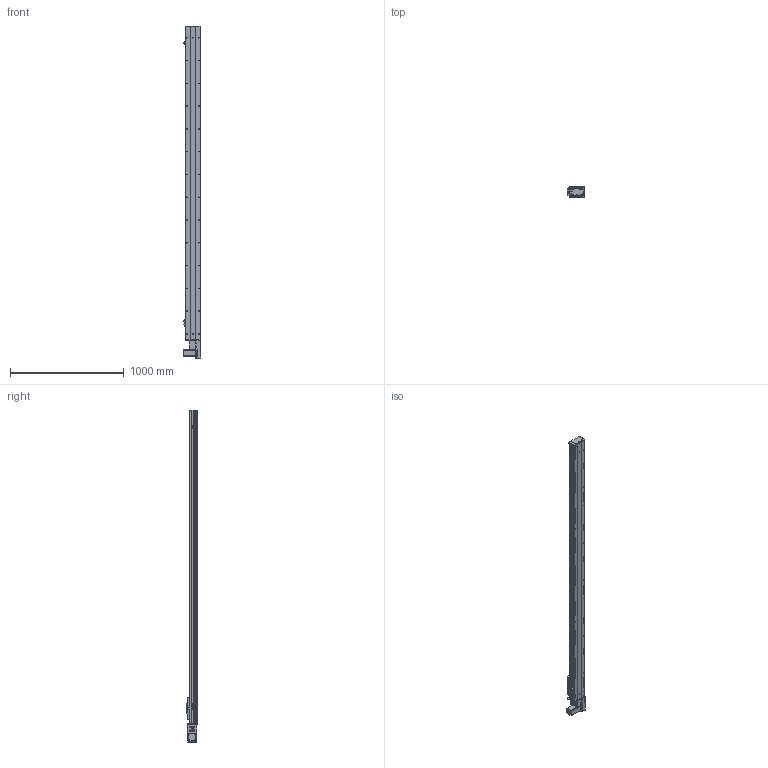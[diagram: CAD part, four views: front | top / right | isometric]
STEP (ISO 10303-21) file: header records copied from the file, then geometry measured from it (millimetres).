
FILE_DESCRIPTION (( 'STEP AP203' ), '1' );
FILE_NAME ('Y135CB-D90-S2450-BL-P400W.STEP', '2020-02-18T01:38:35', ( '微软用户' ), ( '微软中国' ), 'SwSTEP 2.0', 'SolidWorks 2017', '' );
FILE_SCHEMA (( 'CONFIG_CONTROL_DESIGN' ));
Length unit declared in the file: millimetre
Products named in the file (18): Y135CB-耜裔; C-雄赽釱--; 0B-萇儂楊擘啣; 135CB---遴掛极.-; Y135CB-D90-S2450-BL-P400W; san松下电机400不带刹车----; 35CB---喘謫眊楊擘啣; 5CB --掛极耜裔啣-; Y10B--々湍喘謫眊--666; C-詩湍揤踡え-陔; Y10B-耜蚾蟀諉啣----; 135CB--詩湍-CE; Y俋欶BR----; Y100-135俋离換覜ん--; 0B-埴倛裔啣; Y135C-陔俋离換覜結え-; 0B-源倛裔啣; 5C--俋欶
Assembly tree (21 placements, depth 2):
  Y135CB-D90-S2450-BL-P400W
    Y135CB-耜裔
    135CB---遴掛极.-
    35CB---喘謫眊楊擘啣
    Y10B--々湍喘謫眊--666
    Y10B-耜蚾蟀諉啣----
    Y俋欶BR----
    0B-埴倛裔啣
    0B-源倛裔啣
    0B-萇儂楊擘啣
    san松下电机400不带刹车----
    5CB --掛极耜裔啣-  x2
    C-詩湍揤踡え-陔  x2
    135CB--詩湍-CE
    Y100-135俋离換覜ん--  x3
    Y135C-陔俋离換覜結え-
    5C--俋欶
    C-雄赽釱--
Bounding box: 157.5 x 91 x 2914.5 mm (x, y, z)
Volume: 8152880.6 mm3; surface area: 3228956.8 mm2
Topology: 21 solids, 21 shells, 973 faces, 2653 edges, 1758 vertices
Faces by surface type: cylinder 499, plane 458, cone 16
Entity records: 30755 total; most frequent: CARTESIAN_POINT 5120, DIRECTION 5109, ORIENTED_EDGE 4782, EDGE_CURVE 2391, AXIS2_PLACEMENT_3D 1871, VERTEX_POINT 1586, LINE 1367, VECTOR 1367
